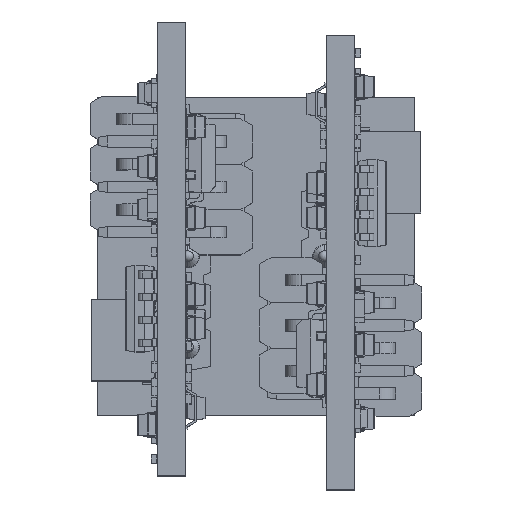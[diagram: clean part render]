
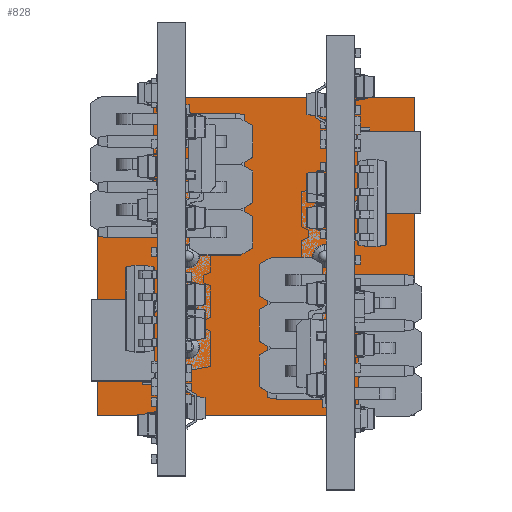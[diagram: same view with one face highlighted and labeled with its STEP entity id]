
A CAD part, top view. The second image highlights one B-rep face of the part: STEP entity #828.
In plain terms, the highlighted planar face has unit normal (0, 0, 1).
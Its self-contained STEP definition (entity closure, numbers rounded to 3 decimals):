
#49 = VERTEX_POINT('',#50);
#50 = CARTESIAN_POINT('',(17.78,17.78,0.));
#67 = VERTEX_POINT('',#68);
#68 = CARTESIAN_POINT('',(17.78,0.,0.));
#74 = EDGE_CURVE('',#49,#67,#75,.T.);
#75 = LINE('',#76,#77);
#76 = CARTESIAN_POINT('',(17.78,17.78,0.));
#77 = VECTOR('',#78,1.);
#78 = DIRECTION('',(0.,-1.,0.));
#98 = VERTEX_POINT('',#99);
#99 = CARTESIAN_POINT('',(0.,0.,0.));
#105 = EDGE_CURVE('',#67,#98,#106,.T.);
#106 = LINE('',#107,#108);
#107 = CARTESIAN_POINT('',(17.78,0.,0.));
#108 = VECTOR('',#109,1.);
#109 = DIRECTION('',(-1.,0.,0.));
#129 = VERTEX_POINT('',#130);
#130 = CARTESIAN_POINT('',(0.,17.78,0.));
#136 = EDGE_CURVE('',#98,#129,#137,.T.);
#137 = LINE('',#138,#139);
#138 = CARTESIAN_POINT('',(0.,0.,0.));
#139 = VECTOR('',#140,1.);
#140 = DIRECTION('',(0.,1.,0.));
#158 = EDGE_CURVE('',#129,#49,#159,.T.);
#159 = LINE('',#160,#161);
#160 = CARTESIAN_POINT('',(0.,17.78,0.));
#161 = VECTOR('',#162,1.);
#162 = DIRECTION('',(1.,0.,0.));
#173 = VERTEX_POINT('',#174);
#174 = CARTESIAN_POINT('',(5.688,11.425,0.));
#190 = EDGE_CURVE('',#173,#173,#191,.T.);
#191 = CIRCLE('',#192,0.6);
#192 = AXIS2_PLACEMENT_3D('',#193,#194,#195);
#193 = CARTESIAN_POINT('',(5.088,11.425,0.));
#194 = DIRECTION('',(0.,0.,-1.));
#195 = DIRECTION('',(1.,0.,0.));
#206 = VERTEX_POINT('',#207);
#207 = CARTESIAN_POINT('',(5.688,8.885,0.));
#223 = EDGE_CURVE('',#206,#206,#224,.T.);
#224 = CIRCLE('',#225,0.6);
#225 = AXIS2_PLACEMENT_3D('',#226,#227,#228);
#226 = CARTESIAN_POINT('',(5.088,8.885,0.));
#227 = DIRECTION('',(0.,0.,-1.));
#228 = DIRECTION('',(1.,0.,0.));
#239 = VERTEX_POINT('',#240);
#240 = CARTESIAN_POINT('',(5.688,6.345,0.));
#256 = EDGE_CURVE('',#239,#239,#257,.T.);
#257 = CIRCLE('',#258,0.6);
#258 = AXIS2_PLACEMENT_3D('',#259,#260,#261);
#259 = CARTESIAN_POINT('',(5.088,6.345,0.));
#260 = DIRECTION('',(0.,0.,-1.));
#261 = DIRECTION('',(1.,0.,0.));
#272 = VERTEX_POINT('',#273);
#273 = CARTESIAN_POINT('',(5.688,3.805,0.));
#289 = EDGE_CURVE('',#272,#272,#290,.T.);
#290 = CIRCLE('',#291,0.6);
#291 = AXIS2_PLACEMENT_3D('',#292,#293,#294);
#292 = CARTESIAN_POINT('',(5.088,3.805,0.));
#293 = DIRECTION('',(0.,0.,-1.));
#294 = DIRECTION('',(1.,0.,0.));
#305 = VERTEX_POINT('',#306);
#306 = CARTESIAN_POINT('',(13.308,11.426,0.));
#322 = EDGE_CURVE('',#305,#305,#323,.T.);
#323 = CIRCLE('',#324,0.6);
#324 = AXIS2_PLACEMENT_3D('',#325,#326,#327);
#325 = CARTESIAN_POINT('',(12.708,11.426,0.));
#326 = DIRECTION('',(0.,0.,-1.));
#327 = DIRECTION('',(1.,0.,0.));
#338 = VERTEX_POINT('',#339);
#339 = CARTESIAN_POINT('',(13.308,8.886,0.));
#355 = EDGE_CURVE('',#338,#338,#356,.T.);
#356 = CIRCLE('',#357,0.6);
#357 = AXIS2_PLACEMENT_3D('',#358,#359,#360);
#358 = CARTESIAN_POINT('',(12.708,8.886,0.));
#359 = DIRECTION('',(0.,0.,-1.));
#360 = DIRECTION('',(1.,0.,0.));
#371 = VERTEX_POINT('',#372);
#372 = CARTESIAN_POINT('',(13.308,6.346,0.));
#388 = EDGE_CURVE('',#371,#371,#389,.T.);
#389 = CIRCLE('',#390,0.6);
#390 = AXIS2_PLACEMENT_3D('',#391,#392,#393);
#391 = CARTESIAN_POINT('',(12.708,6.346,0.));
#392 = DIRECTION('',(0.,0.,-1.));
#393 = DIRECTION('',(1.,0.,0.));
#404 = VERTEX_POINT('',#405);
#405 = CARTESIAN_POINT('',(13.308,3.806,0.));
#421 = EDGE_CURVE('',#404,#404,#422,.T.);
#422 = CIRCLE('',#423,0.6);
#423 = AXIS2_PLACEMENT_3D('',#424,#425,#426);
#424 = CARTESIAN_POINT('',(12.708,3.806,0.));
#425 = DIRECTION('',(0.,0.,-1.));
#426 = DIRECTION('',(1.,0.,0.));
#437 = VERTEX_POINT('',#438);
#438 = CARTESIAN_POINT('',(11.344,7.62,0.));
#454 = EDGE_CURVE('',#437,#437,#455,.T.);
#455 = CIRCLE('',#456,0.55);
#456 = AXIS2_PLACEMENT_3D('',#457,#458,#459);
#457 = CARTESIAN_POINT('',(10.794,7.62,0.));
#458 = DIRECTION('',(0.,0.,-1.));
#459 = DIRECTION('',(1.,0.,0.));
#470 = VERTEX_POINT('',#471);
#471 = CARTESIAN_POINT('',(11.344,5.08,0.));
#487 = EDGE_CURVE('',#470,#470,#488,.T.);
#488 = CIRCLE('',#489,0.55);
#489 = AXIS2_PLACEMENT_3D('',#490,#491,#492);
#490 = CARTESIAN_POINT('',(10.794,5.08,0.));
#491 = DIRECTION('',(0.,0.,-1.));
#492 = DIRECTION('',(1.,0.,0.));
#503 = VERTEX_POINT('',#504);
#504 = CARTESIAN_POINT('',(11.345,2.54,0.));
#520 = EDGE_CURVE('',#503,#503,#521,.T.);
#521 = CIRCLE('',#522,0.55);
#522 = AXIS2_PLACEMENT_3D('',#523,#524,#525);
#523 = CARTESIAN_POINT('',(10.795,2.54,0.));
#524 = DIRECTION('',(0.,0.,-1.));
#525 = DIRECTION('',(1.,0.,0.));
#536 = VERTEX_POINT('',#537);
#537 = CARTESIAN_POINT('',(17.061,6.35,0.));
#553 = EDGE_CURVE('',#536,#536,#554,.T.);
#554 = CIRCLE('',#555,0.55);
#555 = AXIS2_PLACEMENT_3D('',#556,#557,#558);
#556 = CARTESIAN_POINT('',(16.51,6.35,0.));
#557 = DIRECTION('',(0.,0.,-1.));
#558 = DIRECTION('',(1.,0.,0.));
#569 = VERTEX_POINT('',#570);
#570 = CARTESIAN_POINT('',(17.061,3.81,0.));
#586 = EDGE_CURVE('',#569,#569,#587,.T.);
#587 = CIRCLE('',#588,0.55);
#588 = AXIS2_PLACEMENT_3D('',#589,#590,#591);
#589 = CARTESIAN_POINT('',(16.511,3.81,0.));
#590 = DIRECTION('',(0.,0.,-1.));
#591 = DIRECTION('',(1.,0.,0.));
#602 = VERTEX_POINT('',#603);
#603 = CARTESIAN_POINT('',(17.061,1.27,0.));
#619 = EDGE_CURVE('',#602,#602,#620,.T.);
#620 = CIRCLE('',#621,0.55);
#621 = AXIS2_PLACEMENT_3D('',#622,#623,#624);
#622 = CARTESIAN_POINT('',(16.511,1.27,0.));
#623 = DIRECTION('',(0.,0.,-1.));
#624 = DIRECTION('',(1.,0.,0.));
#635 = VERTEX_POINT('',#636);
#636 = CARTESIAN_POINT('',(7.536,10.16,0.));
#652 = EDGE_CURVE('',#635,#635,#653,.T.);
#653 = CIRCLE('',#654,0.55);
#654 = AXIS2_PLACEMENT_3D('',#655,#656,#657);
#655 = CARTESIAN_POINT('',(6.986,10.16,0.));
#656 = DIRECTION('',(0.,0.,-1.));
#657 = DIRECTION('',(1.,0.,0.));
#668 = VERTEX_POINT('',#669);
#669 = CARTESIAN_POINT('',(7.536,12.7,0.));
#685 = EDGE_CURVE('',#668,#668,#686,.T.);
#686 = CIRCLE('',#687,0.55);
#687 = AXIS2_PLACEMENT_3D('',#688,#689,#690);
#688 = CARTESIAN_POINT('',(6.986,12.7,0.));
#689 = DIRECTION('',(0.,0.,-1.));
#690 = DIRECTION('',(1.,0.,0.));
#701 = VERTEX_POINT('',#702);
#702 = CARTESIAN_POINT('',(7.536,15.24,0.));
#718 = EDGE_CURVE('',#701,#701,#719,.T.);
#719 = CIRCLE('',#720,0.55);
#720 = AXIS2_PLACEMENT_3D('',#721,#722,#723);
#721 = CARTESIAN_POINT('',(6.986,15.24,0.));
#722 = DIRECTION('',(0.,0.,-1.));
#723 = DIRECTION('',(1.,0.,0.));
#734 = VERTEX_POINT('',#735);
#735 = CARTESIAN_POINT('',(1.82,11.43,0.));
#751 = EDGE_CURVE('',#734,#734,#752,.T.);
#752 = CIRCLE('',#753,0.55);
#753 = AXIS2_PLACEMENT_3D('',#754,#755,#756);
#754 = CARTESIAN_POINT('',(1.27,11.43,0.));
#755 = DIRECTION('',(0.,0.,-1.));
#756 = DIRECTION('',(1.,0.,0.));
#767 = VERTEX_POINT('',#768);
#768 = CARTESIAN_POINT('',(1.819,13.97,0.));
#784 = EDGE_CURVE('',#767,#767,#785,.T.);
#785 = CIRCLE('',#786,0.55);
#786 = AXIS2_PLACEMENT_3D('',#787,#788,#789);
#787 = CARTESIAN_POINT('',(1.269,13.97,0.));
#788 = DIRECTION('',(0.,0.,-1.));
#789 = DIRECTION('',(1.,0.,0.));
#800 = VERTEX_POINT('',#801);
#801 = CARTESIAN_POINT('',(1.819,16.51,0.));
#817 = EDGE_CURVE('',#800,#800,#818,.T.);
#818 = CIRCLE('',#819,0.55);
#819 = AXIS2_PLACEMENT_3D('',#820,#821,#822);
#820 = CARTESIAN_POINT('',(1.269,16.51,0.));
#821 = DIRECTION('',(0.,0.,-1.));
#822 = DIRECTION('',(1.,0.,0.));
#828 = ADVANCED_FACE('',(#829,#835,#838,#841,#844,#847,#850,#853,#856,
    #859,#862,#865,#868,#871,#874,#877,#880,#883,#886,#889,#892),#895,
  .T.);
#829 = FACE_BOUND('',#830,.F.);
#830 = EDGE_LOOP('',(#831,#832,#833,#834));
#831 = ORIENTED_EDGE('',*,*,#74,.T.);
#832 = ORIENTED_EDGE('',*,*,#105,.T.);
#833 = ORIENTED_EDGE('',*,*,#136,.T.);
#834 = ORIENTED_EDGE('',*,*,#158,.T.);
#835 = FACE_BOUND('',#836,.F.);
#836 = EDGE_LOOP('',(#837));
#837 = ORIENTED_EDGE('',*,*,#190,.T.);
#838 = FACE_BOUND('',#839,.F.);
#839 = EDGE_LOOP('',(#840));
#840 = ORIENTED_EDGE('',*,*,#223,.T.);
#841 = FACE_BOUND('',#842,.F.);
#842 = EDGE_LOOP('',(#843));
#843 = ORIENTED_EDGE('',*,*,#256,.T.);
#844 = FACE_BOUND('',#845,.F.);
#845 = EDGE_LOOP('',(#846));
#846 = ORIENTED_EDGE('',*,*,#289,.T.);
#847 = FACE_BOUND('',#848,.F.);
#848 = EDGE_LOOP('',(#849));
#849 = ORIENTED_EDGE('',*,*,#322,.T.);
#850 = FACE_BOUND('',#851,.F.);
#851 = EDGE_LOOP('',(#852));
#852 = ORIENTED_EDGE('',*,*,#355,.T.);
#853 = FACE_BOUND('',#854,.F.);
#854 = EDGE_LOOP('',(#855));
#855 = ORIENTED_EDGE('',*,*,#388,.T.);
#856 = FACE_BOUND('',#857,.F.);
#857 = EDGE_LOOP('',(#858));
#858 = ORIENTED_EDGE('',*,*,#421,.T.);
#859 = FACE_BOUND('',#860,.F.);
#860 = EDGE_LOOP('',(#861));
#861 = ORIENTED_EDGE('',*,*,#454,.T.);
#862 = FACE_BOUND('',#863,.F.);
#863 = EDGE_LOOP('',(#864));
#864 = ORIENTED_EDGE('',*,*,#487,.T.);
#865 = FACE_BOUND('',#866,.F.);
#866 = EDGE_LOOP('',(#867));
#867 = ORIENTED_EDGE('',*,*,#520,.T.);
#868 = FACE_BOUND('',#869,.F.);
#869 = EDGE_LOOP('',(#870));
#870 = ORIENTED_EDGE('',*,*,#553,.T.);
#871 = FACE_BOUND('',#872,.F.);
#872 = EDGE_LOOP('',(#873));
#873 = ORIENTED_EDGE('',*,*,#586,.T.);
#874 = FACE_BOUND('',#875,.F.);
#875 = EDGE_LOOP('',(#876));
#876 = ORIENTED_EDGE('',*,*,#619,.T.);
#877 = FACE_BOUND('',#878,.F.);
#878 = EDGE_LOOP('',(#879));
#879 = ORIENTED_EDGE('',*,*,#652,.T.);
#880 = FACE_BOUND('',#881,.F.);
#881 = EDGE_LOOP('',(#882));
#882 = ORIENTED_EDGE('',*,*,#685,.T.);
#883 = FACE_BOUND('',#884,.F.);
#884 = EDGE_LOOP('',(#885));
#885 = ORIENTED_EDGE('',*,*,#718,.T.);
#886 = FACE_BOUND('',#887,.F.);
#887 = EDGE_LOOP('',(#888));
#888 = ORIENTED_EDGE('',*,*,#751,.T.);
#889 = FACE_BOUND('',#890,.F.);
#890 = EDGE_LOOP('',(#891));
#891 = ORIENTED_EDGE('',*,*,#784,.T.);
#892 = FACE_BOUND('',#893,.F.);
#893 = EDGE_LOOP('',(#894));
#894 = ORIENTED_EDGE('',*,*,#817,.T.);
#895 = PLANE('',#896);
#896 = AXIS2_PLACEMENT_3D('',#897,#898,#899);
#897 = CARTESIAN_POINT('',(17.78,17.78,0.));
#898 = DIRECTION('',(0.,0.,1.));
#899 = DIRECTION('',(1.,0.,0.));
